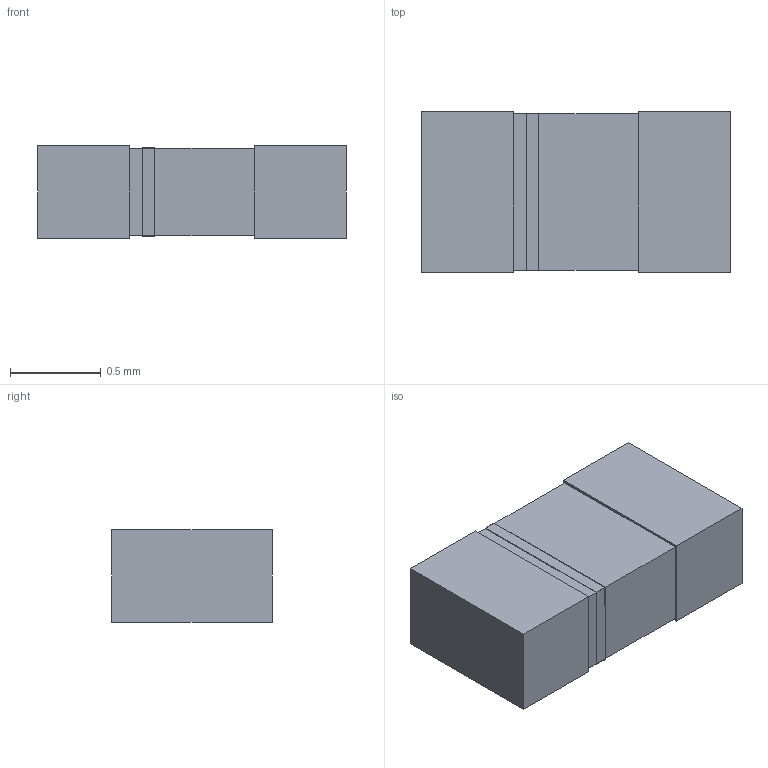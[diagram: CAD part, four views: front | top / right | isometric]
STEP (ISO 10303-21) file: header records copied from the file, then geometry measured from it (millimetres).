
FILE_DESCRIPTION(('STEP AP214'),'1');
FILE_NAME('CAP_GRM18_MUR','2025-04-02T06:22:11',(''),(''),'','','');
FILE_SCHEMA(('AUTOMOTIVE_DESIGN'));
Length unit declared in the file: millimetre
Products named in the file (1): product
Bounding box: 1.7 x 0.89 x 0.51 mm (x, y, z)
Volume: 0.7 mm3; surface area: 7.7 mm2
Topology: 4 solids, 4 shells, 30 faces, 64 edges, 40 vertices
Faces by surface type: plane 30
Entity records: 916 total; most frequent: ORIENTED_EDGE 128, DIRECTION 126, CARTESIAN_POINT 71, EDGE_CURVE 64, LINE 64, VECTOR 64, VERTEX_POINT 40, AXIS2_PLACEMENT_3D 31
